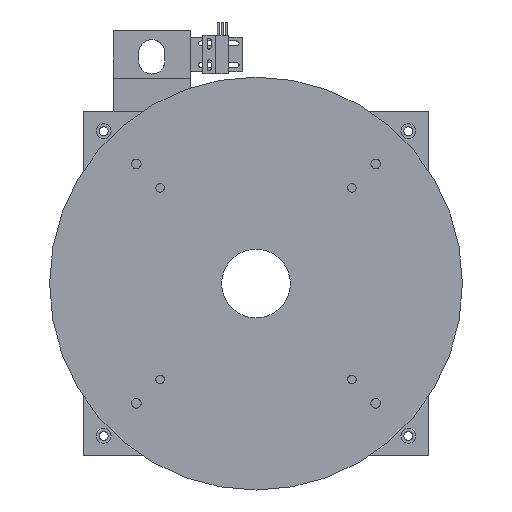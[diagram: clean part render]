
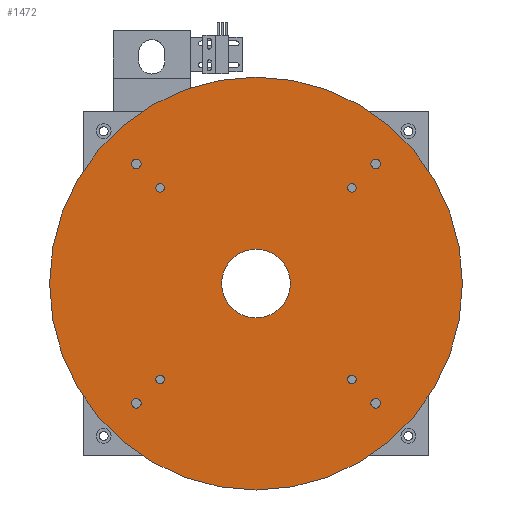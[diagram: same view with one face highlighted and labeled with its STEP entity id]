
A CAD part, front view. The second image highlights one B-rep face of the part: STEP entity #1472.
In plain terms, the highlighted planar face has unit normal (0, -1, 0).
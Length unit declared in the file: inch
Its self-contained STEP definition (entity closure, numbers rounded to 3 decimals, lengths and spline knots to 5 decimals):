
#1063=CARTESIAN_POINT('',(3.47986,-0.75,3.47986));
#1064=DIRECTION('',(0.,-1.,0.));
#1065=DIRECTION('',(1.,0.,0.));
#1066=AXIS2_PLACEMENT_3D('',#1063,#1064,#1065);
#1068=CARTESIAN_POINT('',(3.47986,-0.75,3.47986));
#1069=DIRECTION('',(0.,-1.,0.));
#1070=DIRECTION('',(-1.,0.,0.));
#1071=AXIS2_PLACEMENT_3D('',#1068,#1069,#1070);
#1073=CARTESIAN_POINT('',(-3.47986,-0.75,3.47986));
#1074=DIRECTION('',(0.,-1.,0.));
#1075=DIRECTION('',(1.,0.,0.));
#1076=AXIS2_PLACEMENT_3D('',#1073,#1074,#1075);
#1078=CARTESIAN_POINT('',(-3.47986,-0.75,3.47986));
#1079=DIRECTION('',(0.,-1.,0.));
#1080=DIRECTION('',(-1.,0.,0.));
#1081=AXIS2_PLACEMENT_3D('',#1078,#1079,#1080);
#1083=CARTESIAN_POINT('',(-3.47986,-0.75,-3.47986));
#1084=DIRECTION('',(0.,-1.,0.));
#1085=DIRECTION('',(1.,0.,0.));
#1086=AXIS2_PLACEMENT_3D('',#1083,#1084,#1085);
#1088=CARTESIAN_POINT('',(-3.47986,-0.75,-3.47986));
#1089=DIRECTION('',(0.,-1.,0.));
#1090=DIRECTION('',(-1.,0.,0.));
#1091=AXIS2_PLACEMENT_3D('',#1088,#1089,#1090);
#1093=CARTESIAN_POINT('',(2.78388,-0.75,2.78388));
#1094=DIRECTION('',(0.,-1.,0.));
#1095=DIRECTION('',(1.,0.,0.));
#1096=AXIS2_PLACEMENT_3D('',#1093,#1094,#1095);
#1098=CARTESIAN_POINT('',(2.78388,-0.75,2.78388));
#1099=DIRECTION('',(0.,-1.,0.));
#1100=DIRECTION('',(-1.,0.,0.));
#1101=AXIS2_PLACEMENT_3D('',#1098,#1099,#1100);
#1103=CARTESIAN_POINT('',(-2.78388,-0.75,2.78388));
#1104=DIRECTION('',(0.,-1.,0.));
#1105=DIRECTION('',(1.,0.,0.));
#1106=AXIS2_PLACEMENT_3D('',#1103,#1104,#1105);
#1108=CARTESIAN_POINT('',(-2.78388,-0.75,2.78388));
#1109=DIRECTION('',(0.,-1.,0.));
#1110=DIRECTION('',(-1.,0.,0.));
#1111=AXIS2_PLACEMENT_3D('',#1108,#1109,#1110);
#1113=CARTESIAN_POINT('',(-2.78388,-0.75,-2.78388));
#1114=DIRECTION('',(0.,-1.,0.));
#1115=DIRECTION('',(1.,0.,0.));
#1116=AXIS2_PLACEMENT_3D('',#1113,#1114,#1115);
#1118=CARTESIAN_POINT('',(-2.78388,-0.75,-2.78388));
#1119=DIRECTION('',(0.,-1.,0.));
#1120=DIRECTION('',(-1.,0.,0.));
#1121=AXIS2_PLACEMENT_3D('',#1118,#1119,#1120);
#1123=CARTESIAN_POINT('',(0.,-0.75,0.));
#1124=DIRECTION('',(0.,-1.,0.));
#1125=DIRECTION('',(0.,0.,-1.));
#1126=AXIS2_PLACEMENT_3D('',#1123,#1124,#1125);
#1128=CARTESIAN_POINT('',(0.,-0.75,0.));
#1129=DIRECTION('',(0.,-1.,0.));
#1130=DIRECTION('',(0.,0.,1.));
#1131=AXIS2_PLACEMENT_3D('',#1128,#1129,#1130);
#1133=CARTESIAN_POINT('',(0.,-0.75,0.));
#1134=DIRECTION('',(0.,1.,0.));
#1135=DIRECTION('',(-1.,0.,0.));
#1136=AXIS2_PLACEMENT_3D('',#1133,#1134,#1135);
#1138=CARTESIAN_POINT('',(0.,-0.75,0.));
#1139=DIRECTION('',(0.,1.,0.));
#1140=DIRECTION('',(1.,0.,0.));
#1141=AXIS2_PLACEMENT_3D('',#1138,#1139,#1140);
#1143=CARTESIAN_POINT('',(2.78388,-0.75,-2.78388));
#1144=DIRECTION('',(0.,-1.,0.));
#1145=DIRECTION('',(1.,0.,0.));
#1146=AXIS2_PLACEMENT_3D('',#1143,#1144,#1145);
#1148=CARTESIAN_POINT('',(2.78388,-0.75,-2.78388));
#1149=DIRECTION('',(0.,-1.,0.));
#1150=DIRECTION('',(-1.,0.,0.));
#1151=AXIS2_PLACEMENT_3D('',#1148,#1149,#1150);
#1153=CARTESIAN_POINT('',(3.47986,-0.75,-3.47986));
#1154=DIRECTION('',(0.,-1.,0.));
#1155=DIRECTION('',(1.,0.,0.));
#1156=AXIS2_PLACEMENT_3D('',#1153,#1154,#1155);
#1158=CARTESIAN_POINT('',(3.47986,-0.75,-3.47986));
#1159=DIRECTION('',(0.,-1.,0.));
#1160=DIRECTION('',(-1.,0.,0.));
#1161=AXIS2_PLACEMENT_3D('',#1158,#1159,#1160);
#1239=CARTESIAN_POINT('',(0.,-0.75,-6.));
#1240=CARTESIAN_POINT('',(0.,-0.75,6.));
#1241=VERTEX_POINT('',#1239);
#1242=VERTEX_POINT('',#1240);
#1247=CARTESIAN_POINT('',(-1.,-0.75,0.));
#1248=CARTESIAN_POINT('',(1.,-0.75,0.));
#1249=VERTEX_POINT('',#1247);
#1250=VERTEX_POINT('',#1248);
#1255=CARTESIAN_POINT('',(2.90888,-0.75,-2.78388));
#1256=CARTESIAN_POINT('',(2.65888,-0.75,-2.78388));
#1257=VERTEX_POINT('',#1255);
#1258=VERTEX_POINT('',#1256);
#1263=CARTESIAN_POINT('',(-2.65888,-0.75,-2.78388));
#1264=CARTESIAN_POINT('',(-2.90888,-0.75,-2.78388));
#1265=VERTEX_POINT('',#1263);
#1266=VERTEX_POINT('',#1264);
#1271=CARTESIAN_POINT('',(-2.65888,-0.75,2.78388));
#1272=CARTESIAN_POINT('',(-2.90888,-0.75,2.78388));
#1273=VERTEX_POINT('',#1271);
#1274=VERTEX_POINT('',#1272);
#1279=CARTESIAN_POINT('',(2.90888,-0.75,2.78388));
#1280=CARTESIAN_POINT('',(2.65888,-0.75,2.78388));
#1281=VERTEX_POINT('',#1279);
#1282=VERTEX_POINT('',#1280);
#1287=CARTESIAN_POINT('',(3.61986,-0.75,-3.47986));
#1288=CARTESIAN_POINT('',(3.33986,-0.75,-3.47986));
#1289=VERTEX_POINT('',#1287);
#1290=VERTEX_POINT('',#1288);
#1295=CARTESIAN_POINT('',(-3.33986,-0.75,-3.47986));
#1296=CARTESIAN_POINT('',(-3.61986,-0.75,-3.47986));
#1297=VERTEX_POINT('',#1295);
#1298=VERTEX_POINT('',#1296);
#1303=CARTESIAN_POINT('',(-3.33986,-0.75,3.47986));
#1304=CARTESIAN_POINT('',(-3.61986,-0.75,3.47986));
#1305=VERTEX_POINT('',#1303);
#1306=VERTEX_POINT('',#1304);
#1311=CARTESIAN_POINT('',(3.61986,-0.75,3.47986));
#1312=CARTESIAN_POINT('',(3.33986,-0.75,3.47986));
#1313=VERTEX_POINT('',#1311);
#1314=VERTEX_POINT('',#1312);
#1409=CARTESIAN_POINT('',(0.,-0.75,0.));
#1410=DIRECTION('',(0.,-1.,0.));
#1411=DIRECTION('',(0.,0.,-1.));
#1412=AXIS2_PLACEMENT_3D('',#1409,#1410,#1411);
#1413=PLANE('',#1412);
#1415=ORIENTED_EDGE('',*,*,#1414,.F.);
#1417=ORIENTED_EDGE('',*,*,#1416,.F.);
#1418=EDGE_LOOP('',(#1415,#1417));
#1419=FACE_OUTER_BOUND('',#1418,.F.);
#1420=ORIENTED_EDGE('',*,*,#1389,.T.);
#1421=ORIENTED_EDGE('',*,*,#1403,.T.);
#1422=EDGE_LOOP('',(#1420,#1421));
#1423=FACE_BOUND('',#1422,.F.);
#1425=ORIENTED_EDGE('',*,*,#1424,.T.);
#1427=ORIENTED_EDGE('',*,*,#1426,.T.);
#1428=EDGE_LOOP('',(#1425,#1427));
#1429=FACE_BOUND('',#1428,.F.);
#1431=ORIENTED_EDGE('',*,*,#1430,.T.);
#1433=ORIENTED_EDGE('',*,*,#1432,.T.);
#1434=EDGE_LOOP('',(#1431,#1433));
#1435=FACE_BOUND('',#1434,.F.);
#1437=ORIENTED_EDGE('',*,*,#1436,.T.);
#1439=ORIENTED_EDGE('',*,*,#1438,.T.);
#1440=EDGE_LOOP('',(#1437,#1439));
#1441=FACE_BOUND('',#1440,.F.);
#1443=ORIENTED_EDGE('',*,*,#1442,.T.);
#1445=ORIENTED_EDGE('',*,*,#1444,.T.);
#1446=EDGE_LOOP('',(#1443,#1445));
#1447=FACE_BOUND('',#1446,.F.);
#1449=ORIENTED_EDGE('',*,*,#1448,.T.);
#1451=ORIENTED_EDGE('',*,*,#1450,.T.);
#1452=EDGE_LOOP('',(#1449,#1451));
#1453=FACE_BOUND('',#1452,.F.);
#1455=ORIENTED_EDGE('',*,*,#1454,.F.);
#1457=ORIENTED_EDGE('',*,*,#1456,.F.);
#1458=EDGE_LOOP('',(#1455,#1457));
#1459=FACE_BOUND('',#1458,.F.);
#1461=ORIENTED_EDGE('',*,*,#1460,.T.);
#1463=ORIENTED_EDGE('',*,*,#1462,.T.);
#1464=EDGE_LOOP('',(#1461,#1463));
#1465=FACE_BOUND('',#1464,.F.);
#1467=ORIENTED_EDGE('',*,*,#1466,.T.);
#1469=ORIENTED_EDGE('',*,*,#1468,.T.);
#1470=EDGE_LOOP('',(#1467,#1469));
#1471=FACE_BOUND('',#1470,.F.);
#1472=ADVANCED_FACE('',(#1419,#1423,#1429,#1435,#1441,#1447,#1453,#1459,#1465,
#1471),#1413,.T.);
#1067=CIRCLE('',#1066,0.14);
#1072=CIRCLE('',#1071,0.14);
#1077=CIRCLE('',#1076,0.14);
#1082=CIRCLE('',#1081,0.14);
#1087=CIRCLE('',#1086,0.14);
#1092=CIRCLE('',#1091,0.14);
#1097=CIRCLE('',#1096,0.125);
#1102=CIRCLE('',#1101,0.125);
#1107=CIRCLE('',#1106,0.125);
#1112=CIRCLE('',#1111,0.125);
#1117=CIRCLE('',#1116,0.125);
#1122=CIRCLE('',#1121,0.125);
#1127=CIRCLE('',#1126,6.);
#1132=CIRCLE('',#1131,6.);
#1137=CIRCLE('',#1136,1.);
#1142=CIRCLE('',#1141,1.);
#1147=CIRCLE('',#1146,0.125);
#1152=CIRCLE('',#1151,0.125);
#1157=CIRCLE('',#1156,0.14);
#1162=CIRCLE('',#1161,0.14);
#1389=EDGE_CURVE('',#1313,#1314,#1067,.T.);
#1403=EDGE_CURVE('',#1314,#1313,#1072,.T.);
#1414=EDGE_CURVE('',#1241,#1242,#1127,.T.);
#1416=EDGE_CURVE('',#1242,#1241,#1132,.T.);
#1424=EDGE_CURVE('',#1305,#1306,#1077,.T.);
#1426=EDGE_CURVE('',#1306,#1305,#1082,.T.);
#1430=EDGE_CURVE('',#1297,#1298,#1087,.T.);
#1432=EDGE_CURVE('',#1298,#1297,#1092,.T.);
#1436=EDGE_CURVE('',#1281,#1282,#1097,.T.);
#1438=EDGE_CURVE('',#1282,#1281,#1102,.T.);
#1442=EDGE_CURVE('',#1273,#1274,#1107,.T.);
#1444=EDGE_CURVE('',#1274,#1273,#1112,.T.);
#1448=EDGE_CURVE('',#1265,#1266,#1117,.T.);
#1450=EDGE_CURVE('',#1266,#1265,#1122,.T.);
#1454=EDGE_CURVE('',#1249,#1250,#1137,.T.);
#1456=EDGE_CURVE('',#1250,#1249,#1142,.T.);
#1460=EDGE_CURVE('',#1257,#1258,#1147,.T.);
#1462=EDGE_CURVE('',#1258,#1257,#1152,.T.);
#1466=EDGE_CURVE('',#1289,#1290,#1157,.T.);
#1468=EDGE_CURVE('',#1290,#1289,#1162,.T.);
